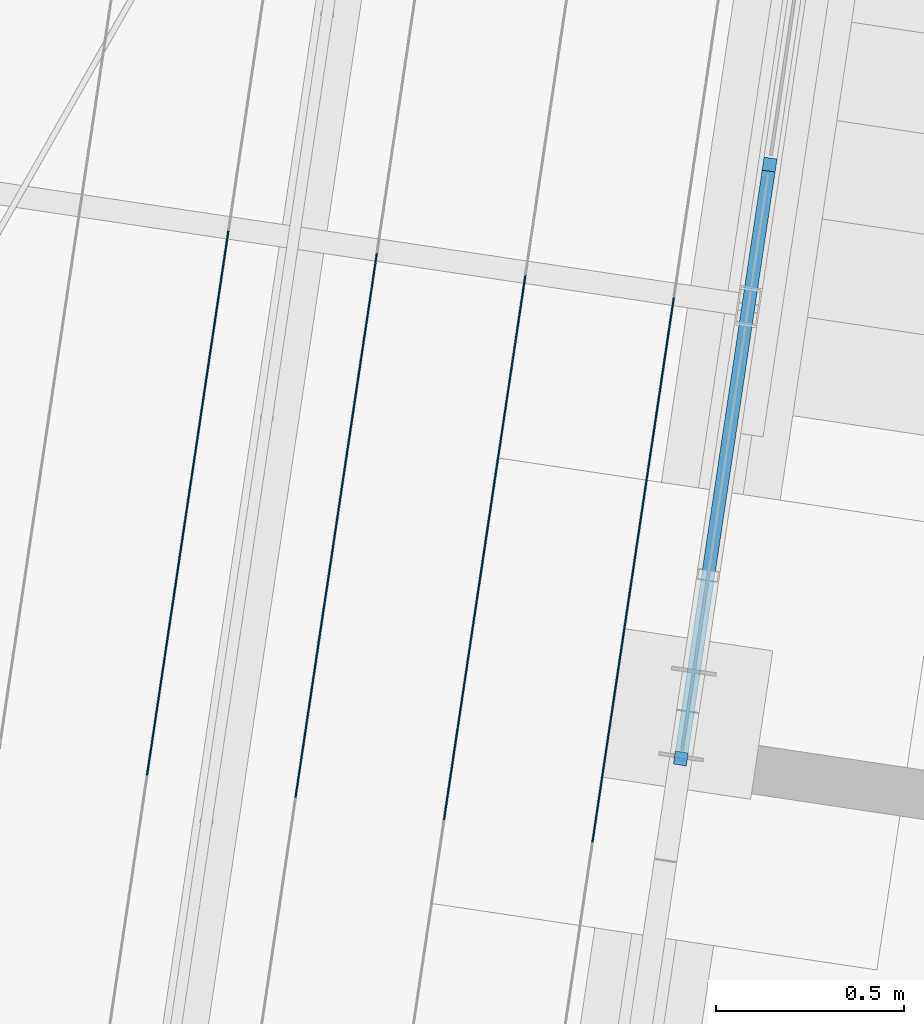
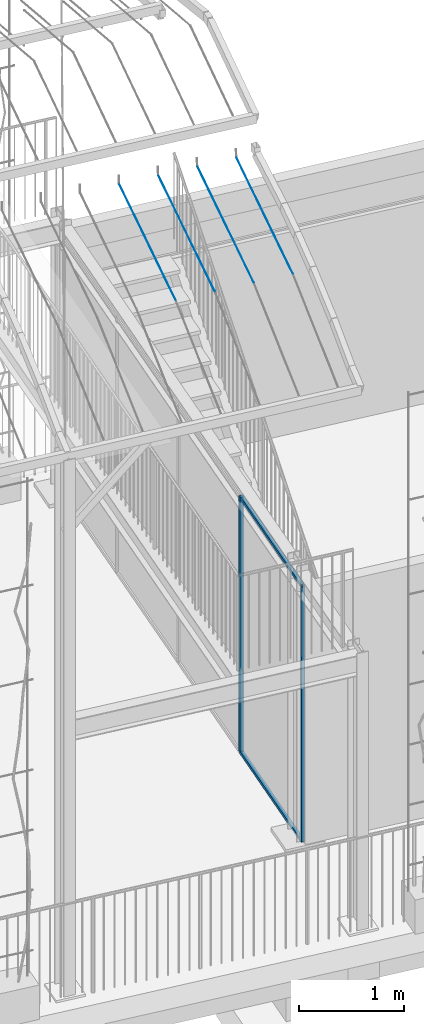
# One storey, part 25 of 142: 9 members, 1 element without a shape of its own.
"""IFC4 building model written with IfcOpenShell, lengths in metres."""

from ifc_helpers import new_model, si_unit, direction, frame, origin_with_axes, place, context, subcontext, project, spatial, rectangle, circle, extrude, material, material_profile, profile_set, profile_usage, type_object, element, aggregate, save


model = new_model("IFC4")

# Units and contexts
model_context = context("Model", 3, precision=1e-05, world=origin_with_axes(), true_north=direction((0.0, 1.0)))
body_context = subcontext(model_context, "Body", "Model", "MODEL_VIEW")
ifc_project = project(units=[si_unit("LENGTHUNIT", "METRE"), si_unit("AREAUNIT", "SQUARE_METRE"), si_unit("VOLUMEUNIT", "CUBIC_METRE")], contexts=[model_context])

# Site, building, storey
site_placement = place(None, origin_with_axes())
site = spatial("IfcSite", under=ifc_project, at=site_placement, Name="Lares · Rua das Mercês · artigo 4771")
building_placement = place(site_placement, frame((15.0, 9.7, 14.65), z_axis=(0.0, 0.0, 1.0), x_axis=(0.989015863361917, -0.147809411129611, 0.0)))
building = spatial("IfcBuilding", under=site, at=building_placement, Name="Casa Sobreposta")
storey_placement = place(building_placement, origin_with_axes())
storey = spatial("IfcBuildingStorey", under=building, at=storey_placement, Name="00 · Habitação e estacionamento", Elevation=14.65)

# Members
ifc_material_1 = material(Name="Aço pintado / Stahl lackiert", Category="steel")
ifc_material_profile_1 = material_profile(ifc_material_1, rectangle(XDim=0.035, YDim=0.035))
ifc_profile_set_1 = profile_set([ifc_material_profile_1], Name="R0.035")
ifc_profile_usage_1 = profile_usage(ifc_profile_set_1)
member_type_1 = type_object("IfcMemberType", Name="R0.035 / steel", PredefinedType="NOTDEFINED", material=ifc_profile_set_1)
member_1_placement = place(storey_placement, origin_with_axes())
element("IfcMember", 1, at=member_1_placement, inside=storey, type_object=member_type_1, material=ifc_profile_usage_1, Name="Fachada poente integralmente envidraçada · módulo 1 · montante", context=body_context, shape_type="SweptSolid", body=[
    extrude(rectangle(XDim=0.035, YDim=0.035), origin_with_axes(), (0.0, 0.0, 1.0), 2.968),
])
ifc_profile_usage_2 = profile_usage(ifc_profile_set_1)
member_2_placement = place(storey_placement, frame((0.0, 1.6, 0.0), z_axis=(0.0, 0.0, 1.0), x_axis=(1.0, 0.0, 0.0)))
element("IfcMember", 2, at=member_2_placement, inside=storey, type_object=member_type_1, material=ifc_profile_usage_2, context=body_context, shape_type="SweptSolid", body=[
    extrude(rectangle(XDim=0.035, YDim=0.035), origin_with_axes(), (0.0, 0.0, 1.0), 2.968),
])
ifc_profile_usage_3 = profile_usage(ifc_profile_set_1)
member_3_placement = place(storey_placement, frame((0.0, 0.0, 0.0), z_axis=(0.0, 1.0, 0.0), x_axis=(1.0, 0.0, 0.0)))
element("IfcMember", 3, at=member_3_placement, inside=storey, type_object=member_type_1, material=ifc_profile_usage_3, Name="Fachada poente integralmente envidraçada · módulo 1 · travessa", context=body_context, shape_type="SweptSolid", body=[
    extrude(rectangle(XDim=0.035, YDim=0.035), origin_with_axes(), (0.0, 0.0, 1.0), 1.6),
])
ifc_profile_usage_4 = profile_usage(ifc_profile_set_1)
member_4_placement = place(storey_placement, frame((0.0, 0.0, 2.968), z_axis=(0.0, 1.0, 0.0), x_axis=(1.0, 0.0, 0.0)))
element("IfcMember", 4, at=member_4_placement, inside=storey, type_object=member_type_1, material=ifc_profile_usage_4, Name="Fachada poente integralmente envidraçada · módulo 1 · travessa", context=body_context, shape_type="SweptSolid", body=[
    extrude(rectangle(XDim=0.035, YDim=0.035), origin_with_axes(), (0.0, 0.0, 1.0), 1.6),
])
ifc_profile_usage_5 = profile_usage(ifc_profile_set_1)
member_5_placement = place(storey_placement, frame((0.0, 1.6, 0.0), z_axis=(0.0, 0.0, 1.0), x_axis=(1.0, 0.0, 0.0)))
element("IfcMember", 5, at=member_5_placement, inside=storey, type_object=member_type_1, material=ifc_profile_usage_5, context=body_context, shape_type="SweptSolid", body=[
    extrude(rectangle(XDim=0.035, YDim=0.035), origin_with_axes(), (0.0, 0.0, 1.0), 2.968),
])

# Assembly, members
assembly_placement = place(storey_placement, origin_with_axes())
assembly = element("IfcElementAssembly", 6, at=assembly_placement, inside=storey, Name="Pérgola · prolongamento da estufa 6 m", ObjectType="PERGOLA_GREENHOUSE_EXTENSION", PredefinedType="USERDEFINED")
ifc_material_2 = material(Name="Aço galvanizado / Stahl verzinkt", Category="steel")
ifc_material_profile_2 = material_profile(ifc_material_2, circle(Radius=0.002))
ifc_profile_set_2 = profile_set([ifc_material_profile_2], Name="D0.004")
ifc_profile_usage_6 = profile_usage(ifc_profile_set_2)
member_type_2 = type_object("IfcMemberType", Name="D0.004 / galvanized", PredefinedType="NOTDEFINED", material=ifc_profile_set_2)
member_6_placement = place(assembly_placement, frame((-1.4, -0.256488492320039, 6.81570306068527), z_axis=(0.0, 0.96535496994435, 0.260940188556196), x_axis=(1.0, 0.0, 0.0)))
member_6 = element("IfcMember", 7, at=member_6_placement, type_object=member_type_2, material=ifc_profile_usage_6, Name="Pérgola · fio para trepadeiras", context=body_context, shape_type="SweptSolid", body=[
    extrude(circle(Radius=0.002), origin_with_axes(), (0.0, 0.0, 1.0), 1.52368621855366),
])
ifc_profile_usage_7 = profile_usage(ifc_profile_set_2)
member_7_placement = place(assembly_placement, frame((-0.999999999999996, -0.256488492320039, 6.81570306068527), z_axis=(0.0, 0.96535496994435, 0.260940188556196), x_axis=(1.0, 0.0, 0.0)))
member_7 = element("IfcMember", 8, at=member_7_placement, type_object=member_type_2, material=ifc_profile_usage_7, Name="Pérgola · fio para trepadeiras", context=body_context, shape_type="SweptSolid", body=[
    extrude(circle(Radius=0.002), origin_with_axes(), (0.0, 0.0, 1.0), 1.52368621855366),
])
ifc_profile_usage_8 = profile_usage(ifc_profile_set_2)
member_8_placement = place(assembly_placement, frame((-0.599999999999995, -0.256488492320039, 6.81570306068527), z_axis=(0.0, 0.96535496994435, 0.260940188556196), x_axis=(1.0, 0.0, 0.0)))
member_8 = element("IfcMember", 9, at=member_8_placement, type_object=member_type_2, material=ifc_profile_usage_8, Name="Pérgola · fio para trepadeiras", context=body_context, shape_type="SweptSolid", body=[
    extrude(circle(Radius=0.002), origin_with_axes(), (0.0, 0.0, 1.0), 1.52368621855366),
])
ifc_profile_usage_9 = profile_usage(ifc_profile_set_2)
member_9_placement = place(assembly_placement, frame((-0.199999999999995, -0.256488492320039, 6.81570306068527), z_axis=(0.0, 0.96535496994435, 0.260940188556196), x_axis=(1.0, 0.0, 0.0)))
member_9 = element("IfcMember", 10, at=member_9_placement, type_object=member_type_2, material=ifc_profile_usage_9, Name="Pérgola · fio para trepadeiras", context=body_context, shape_type="SweptSolid", body=[
    extrude(circle(Radius=0.002), origin_with_axes(), (0.0, 0.0, 1.0), 1.52368621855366),
])
aggregate(assembly, [member_6, member_7, member_8, member_9])

save(model, "model.ifc")
